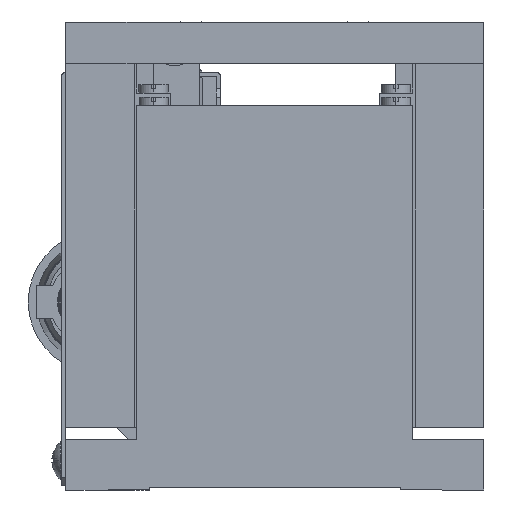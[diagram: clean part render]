
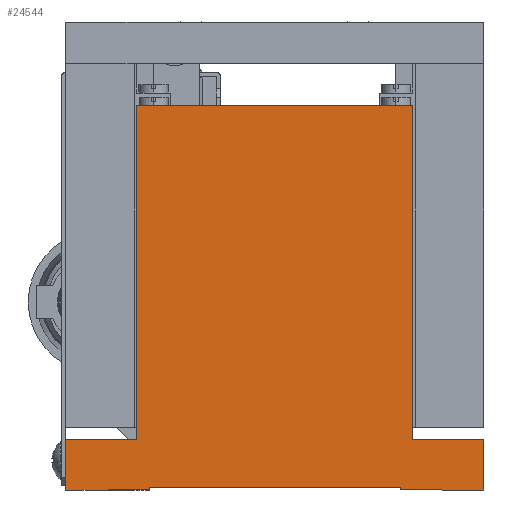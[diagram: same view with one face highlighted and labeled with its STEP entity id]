
A CAD part, left-side view. The second image highlights one B-rep face of the part: STEP entity #24544.
In plain terms, the highlighted planar face has unit normal (-1, 0, 0).
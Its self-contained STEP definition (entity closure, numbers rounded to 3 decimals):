
#118 = CARTESIAN_POINT ( 'NONE',  ( -25., -15., 0.3 ) ) ;
#292 = ORIENTED_EDGE ( 'NONE', *, *, #48291, .T. ) ;
#1739 = DIRECTION ( 'NONE',  ( 0., 1., 0. ) ) ;
#2377 = CARTESIAN_POINT ( 'NONE',  ( -25., 0., 6. ) ) ;
#2448 = EDGE_CURVE ( 'NONE', #35972, #10558, #4234, .T. ) ;
#2510 = ORIENTED_EDGE ( 'NONE', *, *, #15798, .T. ) ;
#2846 = ORIENTED_EDGE ( 'NONE', *, *, #11506, .T. ) ;
#3947 = DIRECTION ( 'NONE',  ( 0., 0., 1. ) ) ;
#4234 = LINE ( 'NONE', #34307, #32714 ) ;
#4545 = CARTESIAN_POINT ( 'NONE',  ( -25., 0., 6. ) ) ;
#4651 = VECTOR ( 'NONE', #27523, 1000. ) ;
#6272 = DIRECTION ( 'NONE',  ( 0., 0., 1. ) ) ;
#6443 = CARTESIAN_POINT ( 'NONE',  ( -25., -25., 0. ) ) ;
#6580 = VERTEX_POINT ( 'NONE', #38153 ) ;
#6638 = FACE_OUTER_BOUND ( 'NONE', #9529, .T. ) ;
#7321 = VECTOR ( 'NONE', #3947, 1000. ) ;
#7517 = LINE ( 'NONE', #9037, #37301 ) ;
#8475 = LINE ( 'NONE', #51824, #4651 ) ;
#9037 = CARTESIAN_POINT ( 'NONE',  ( -25., 0., 0. ) ) ;
#9529 = EDGE_LOOP ( 'NONE', ( #27142, #45943, #34874, #22918, #39477, #292, #51208, #51098, #2846, #2510, #42875, #22548 ) ) ;
#9861 = LINE ( 'NONE', #12449, #7321 ) ;
#9977 = CARTESIAN_POINT ( 'NONE',  ( -25., 16.5, 6. ) ) ;
#10212 = DIRECTION ( 'NONE',  ( 0., -1., 0. ) ) ;
#10522 = DIRECTION ( 'NONE',  ( 0., 0., -1. ) ) ;
#10558 = VERTEX_POINT ( 'NONE', #26777 ) ;
#11506 = EDGE_CURVE ( 'NONE', #28624, #6580, #7517, .T. ) ;
#11997 = CARTESIAN_POINT ( 'NONE',  ( -25., 25., 6. ) ) ;
#12449 = CARTESIAN_POINT ( 'NONE',  ( -25., 15., 0. ) ) ;
#13172 = VECTOR ( 'NONE', #6272, 1000. ) ;
#15798 = EDGE_CURVE ( 'NONE', #6580, #33910, #42291, .T. ) ;
#16428 = DIRECTION ( 'NONE',  ( 0., 0., -1. ) ) ;
#17647 = DIRECTION ( 'NONE',  ( 0., 0., 1. ) ) ;
#18238 = VERTEX_POINT ( 'NONE', #23253 ) ;
#18568 = LINE ( 'NONE', #118, #23015 ) ;
#21370 = CARTESIAN_POINT ( 'NONE',  ( -25., 25., 0. ) ) ;
#22359 = VERTEX_POINT ( 'NONE', #23922 ) ;
#22548 = ORIENTED_EDGE ( 'NONE', *, *, #37184, .T. ) ;
#22558 = CARTESIAN_POINT ( 'NONE',  ( -25., 0., 6. ) ) ;
#22918 = ORIENTED_EDGE ( 'NONE', *, *, #51167, .F. ) ;
#22924 = CARTESIAN_POINT ( 'NONE',  ( -25., 25., 0. ) ) ;
#23015 = VECTOR ( 'NONE', #16428, 1000. ) ;
#23253 = CARTESIAN_POINT ( 'NONE',  ( -25., 15., 0. ) ) ;
#23922 = CARTESIAN_POINT ( 'NONE',  ( -25., -15., 0.3 ) ) ;
#24544 = ADVANCED_FACE ( 'NONE', ( #6638 ), #50887, .F. ) ;
#25394 = EDGE_CURVE ( 'NONE', #22359, #28624, #18568, .T. ) ;
#25547 = EDGE_CURVE ( 'NONE', #41451, #10558, #39480, .T. ) ;
#26284 = CARTESIAN_POINT ( 'NONE',  ( -25., 0., 0. ) ) ;
#26519 = VERTEX_POINT ( 'NONE', #44268 ) ;
#26616 = VECTOR ( 'NONE', #49027, 1000. ) ;
#26777 = CARTESIAN_POINT ( 'NONE',  ( -25., 16.5, 46. ) ) ;
#27142 = ORIENTED_EDGE ( 'NONE', *, *, #2448, .T. ) ;
#27523 = DIRECTION ( 'NONE',  ( 0., -1., 0. ) ) ;
#28624 = VERTEX_POINT ( 'NONE', #30631 ) ;
#28834 = DIRECTION ( 'NONE',  ( 0., 0., 1. ) ) ;
#30089 = AXIS2_PLACEMENT_3D ( 'NONE', #2377, #34778, #10522 ) ;
#30631 = CARTESIAN_POINT ( 'NONE',  ( -25., -15., 0. ) ) ;
#30741 = EDGE_CURVE ( 'NONE', #41451, #43333, #52032, .T. ) ;
#32714 = VECTOR ( 'NONE', #1739, 1000. ) ;
#32887 = VECTOR ( 'NONE', #17647, 1000. ) ;
#33910 = VERTEX_POINT ( 'NONE', #40412 ) ;
#34307 = CARTESIAN_POINT ( 'NONE',  ( -25., 0., 46. ) ) ;
#34778 = DIRECTION ( 'NONE',  ( 1., 0., 0. ) ) ;
#34874 = ORIENTED_EDGE ( 'NONE', *, *, #30741, .T. ) ;
#35972 = VERTEX_POINT ( 'NONE', #50751 ) ;
#36061 = EDGE_CURVE ( 'NONE', #26519, #22359, #8475, .T. ) ;
#36196 = LINE ( 'NONE', #22558, #48254 ) ;
#36956 = VECTOR ( 'NONE', #37343, 1000. ) ;
#37018 = VECTOR ( 'NONE', #10212, 1000. ) ;
#37184 = EDGE_CURVE ( 'NONE', #47318, #35972, #39871, .T. ) ;
#37301 = VECTOR ( 'NONE', #45689, 1000. ) ;
#37343 = DIRECTION ( 'NONE',  ( 0., 0., 1. ) ) ;
#38051 = CARTESIAN_POINT ( 'NONE',  ( -25., -16.5, 6. ) ) ;
#38153 = CARTESIAN_POINT ( 'NONE',  ( -25., -25., 0. ) ) ;
#39448 = VECTOR ( 'NONE', #28834, 1000. ) ;
#39477 = ORIENTED_EDGE ( 'NONE', *, *, #43617, .T. ) ;
#39480 = LINE ( 'NONE', #49748, #36956 ) ;
#39871 = LINE ( 'NONE', #42102, #32887 ) ;
#40412 = CARTESIAN_POINT ( 'NONE',  ( -25., -25., 6. ) ) ;
#41451 = VERTEX_POINT ( 'NONE', #9977 ) ;
#41896 = VERTEX_POINT ( 'NONE', #22924 ) ;
#41986 = LINE ( 'NONE', #21370, #39448 ) ;
#42102 = CARTESIAN_POINT ( 'NONE',  ( -25., -16.5, 6. ) ) ;
#42291 = LINE ( 'NONE', #6443, #13172 ) ;
#42875 = ORIENTED_EDGE ( 'NONE', *, *, #44880, .T. ) ;
#43333 = VERTEX_POINT ( 'NONE', #11997 ) ;
#43617 = EDGE_CURVE ( 'NONE', #41896, #18238, #47815, .T. ) ;
#44268 = CARTESIAN_POINT ( 'NONE',  ( -25., 15., 0.3 ) ) ;
#44880 = EDGE_CURVE ( 'NONE', #33910, #47318, #36196, .T. ) ;
#45689 = DIRECTION ( 'NONE',  ( 0., -1., 0. ) ) ;
#45943 = ORIENTED_EDGE ( 'NONE', *, *, #25547, .F. ) ;
#47318 = VERTEX_POINT ( 'NONE', #38051 ) ;
#47815 = LINE ( 'NONE', #26284, #37018 ) ;
#48254 = VECTOR ( 'NONE', #50934, 1000. ) ;
#48291 = EDGE_CURVE ( 'NONE', #18238, #26519, #9861, .T. ) ;
#49027 = DIRECTION ( 'NONE',  ( 0., 1., 0. ) ) ;
#49748 = CARTESIAN_POINT ( 'NONE',  ( -25., 16.5, 6. ) ) ;
#50751 = CARTESIAN_POINT ( 'NONE',  ( -25., -16.5, 46. ) ) ;
#50887 = PLANE ( 'NONE',  #30089 ) ;
#50934 = DIRECTION ( 'NONE',  ( 0., 1., 0. ) ) ;
#51098 = ORIENTED_EDGE ( 'NONE', *, *, #25394, .T. ) ;
#51167 = EDGE_CURVE ( 'NONE', #41896, #43333, #41986, .T. ) ;
#51208 = ORIENTED_EDGE ( 'NONE', *, *, #36061, .T. ) ;
#51824 = CARTESIAN_POINT ( 'NONE',  ( -25., 15., 0.3 ) ) ;
#52032 = LINE ( 'NONE', #4545, #26616 ) ;
